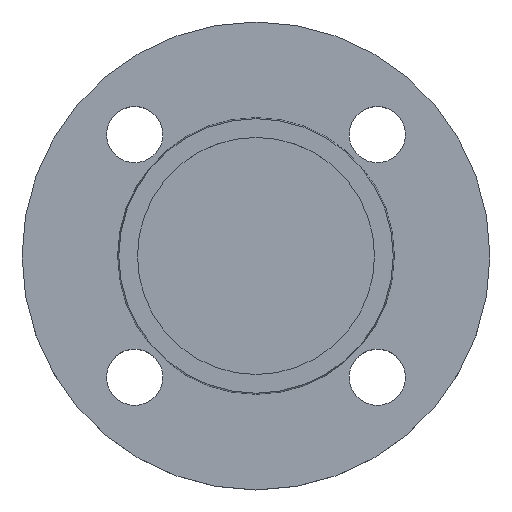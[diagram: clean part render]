
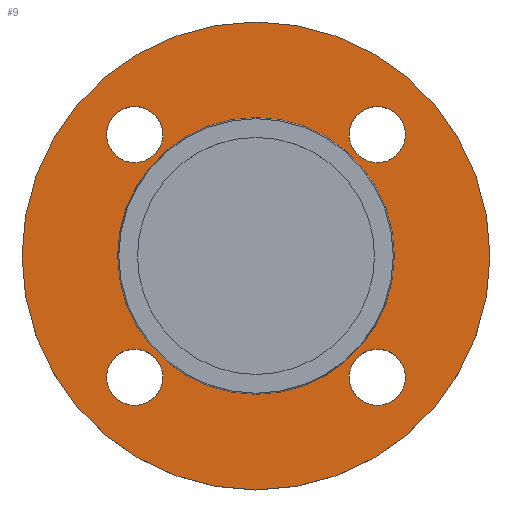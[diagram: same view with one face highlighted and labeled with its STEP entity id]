
A CAD part, top view. The second image highlights one B-rep face of the part: STEP entity #9.
In plain terms, the highlighted planar face has unit normal (0, 0, 1).
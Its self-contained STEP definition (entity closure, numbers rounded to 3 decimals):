
#8 = CIRCLE ( 'NONE', #74, 9. ) ;
#9 = ADVANCED_FACE ( 'NONE', ( #374, #375, #377, #379, #382, #383 ), #384, .T. ) ;
#14 = EDGE_CURVE ( 'NONE', #193, #275, #21, .T. ) ;
#16 = AXIS2_PLACEMENT_3D ( 'NONE', #394, #395, #396 ) ;
#21 = CIRCLE ( 'NONE', #16, 9. ) ;
#27 = CIRCLE ( 'NONE', #317, 9. ) ;
#28 = AXIS2_PLACEMENT_3D ( 'NONE', #108, #109, #115 ) ;
#35 = AXIS2_PLACEMENT_3D ( 'NONE', #429, #431, #432 ) ;
#37 = CIRCLE ( 'NONE', #110, 9. ) ;
#41 = ORIENTED_EDGE ( 'NONE', *, *, #83, .F. ) ;
#44 = AXIS2_PLACEMENT_3D ( 'NONE', #122, #136, #139 ) ;
#48 = ORIENTED_EDGE ( 'NONE', *, *, #167, .T. ) ;
#50 = ORIENTED_EDGE ( 'NONE', *, *, #454, .T. ) ;
#60 = EDGE_CURVE ( 'NONE', #275, #193, #430, .T. ) ;
#64 = CARTESIAN_POINT ( 'NONE',  ( 38.891, -38.891, -2. ) ) ;
#65 = DIRECTION ( 'NONE',  ( 0., 0., -1. ) ) ;
#66 = CIRCLE ( 'NONE', #44, 44.353 ) ;
#68 = AXIS2_PLACEMENT_3D ( 'NONE', #515, #516, #518 ) ;
#69 = DIRECTION ( 'NONE',  ( 1., 0., 0. ) ) ;
#74 = AXIS2_PLACEMENT_3D ( 'NONE', #559, #560, #561 ) ;
#80 = AXIS2_PLACEMENT_3D ( 'NONE', #469, #471, #472 ) ;
#83 = EDGE_CURVE ( 'NONE', #338, #321, #445, .T. ) ;
#90 = CIRCLE ( 'NONE', #80, 9. ) ;
#92 = EDGE_CURVE ( 'NONE', #335, #197, #121, .T. ) ;
#108 = CARTESIAN_POINT ( 'NONE',  ( -38.891, 38.891, -2. ) ) ;
#109 = DIRECTION ( 'NONE',  ( 0., 0., -1. ) ) ;
#110 = AXIS2_PLACEMENT_3D ( 'NONE', #64, #65, #69 ) ;
#114 = CIRCLE ( 'NONE', #68, 75. ) ;
#115 = DIRECTION ( 'NONE',  ( 1., 0., 0. ) ) ;
#121 = CIRCLE ( 'NONE', #35, 9. ) ;
#122 = CARTESIAN_POINT ( 'NONE',  ( 0., 0., -2. ) ) ;
#125 = AXIS2_PLACEMENT_3D ( 'NONE', #426, #427, #428 ) ;
#127 = EDGE_LOOP ( 'NONE', ( #41, #254 ) ) ;
#136 = DIRECTION ( 'NONE',  ( 0., 0., -1. ) ) ;
#139 = DIRECTION ( 'NONE',  ( -1., 0., 0. ) ) ;
#162 = CIRCLE ( 'NONE', #28, 9. ) ;
#167 = EDGE_CURVE ( 'NONE', #195, #295, #27, .T. ) ;
#169 = EDGE_CURVE ( 'NONE', #324, #294, #376, .T. ) ;
#171 = EDGE_CURVE ( 'NONE', #295, #195, #90, .T. ) ;
#189 = AXIS2_PLACEMENT_3D ( 'NONE', #466, #467, #468 ) ;
#193 = VERTEX_POINT ( 'NONE', #492 ) ;
#195 = VERTEX_POINT ( 'NONE', #494 ) ;
#196 = AXIS2_PLACEMENT_3D ( 'NONE', #386, #389, #390 ) ;
#197 = VERTEX_POINT ( 'NONE', #495 ) ;
#216 = ORIENTED_EDGE ( 'NONE', *, *, #171, .T. ) ;
#239 = ORIENTED_EDGE ( 'NONE', *, *, #363, .T. ) ;
#240 = ORIENTED_EDGE ( 'NONE', *, *, #314, .T. ) ;
#241 = EDGE_CURVE ( 'NONE', #321, #338, #114, .T. ) ;
#245 = ORIENTED_EDGE ( 'NONE', *, *, #60, .T. ) ;
#247 = ORIENTED_EDGE ( 'NONE', *, *, #14, .T. ) ;
#248 = ORIENTED_EDGE ( 'NONE', *, *, #92, .T. ) ;
#250 = ORIENTED_EDGE ( 'NONE', *, *, #451, .T. ) ;
#251 = ORIENTED_EDGE ( 'NONE', *, *, #169, .T. ) ;
#254 = ORIENTED_EDGE ( 'NONE', *, *, #241, .F. ) ;
#272 = EDGE_LOOP ( 'NONE', ( #245, #247 ) ) ;
#275 = VERTEX_POINT ( 'NONE', #542 ) ;
#294 = VERTEX_POINT ( 'NONE', #553 ) ;
#295 = VERTEX_POINT ( 'NONE', #554 ) ;
#300 = VERTEX_POINT ( 'NONE', #556 ) ;
#301 = EDGE_LOOP ( 'NONE', ( #251, #50 ) ) ;
#314 = EDGE_CURVE ( 'NONE', #300, #334, #8, .T. ) ;
#317 = AXIS2_PLACEMENT_3D ( 'NONE', #462, #464, #465 ) ;
#321 = VERTEX_POINT ( 'NONE', #568 ) ;
#324 = VERTEX_POINT ( 'NONE', #583 ) ;
#328 = EDGE_LOOP ( 'NONE', ( #48, #216 ) ) ;
#334 = VERTEX_POINT ( 'NONE', #586 ) ;
#335 = VERTEX_POINT ( 'NONE', #587 ) ;
#338 = VERTEX_POINT ( 'NONE', #590 ) ;
#340 = EDGE_LOOP ( 'NONE', ( #239, #240 ) ) ;
#351 = EDGE_LOOP ( 'NONE', ( #248, #250 ) ) ;
#363 = EDGE_CURVE ( 'NONE', #334, #300, #37, .T. ) ;
#369 = AXIS2_PLACEMENT_3D ( 'NONE', #418, #419, #420 ) ;
#374 = FACE_BOUND ( 'NONE', #340, .T. ) ;
#375 = FACE_BOUND ( 'NONE', #272, .T. ) ;
#376 = CIRCLE ( 'NONE', #189, 44.353 ) ;
#377 = FACE_BOUND ( 'NONE', #351, .T. ) ;
#379 = FACE_BOUND ( 'NONE', #328, .T. ) ;
#382 = FACE_BOUND ( 'NONE', #301, .T. ) ;
#383 = FACE_OUTER_BOUND ( 'NONE', #127, .T. ) ;
#384 = PLANE ( 'NONE',  #196 ) ;
#386 = CARTESIAN_POINT ( 'NONE',  ( 44.353, 0., -2. ) ) ;
#389 = DIRECTION ( 'NONE',  ( 0., 0., 1. ) ) ;
#390 = DIRECTION ( 'NONE',  ( 1., 0., 0. ) ) ;
#394 = CARTESIAN_POINT ( 'NONE',  ( -38.891, -38.891, -2. ) ) ;
#395 = DIRECTION ( 'NONE',  ( 0., 0., -1. ) ) ;
#396 = DIRECTION ( 'NONE',  ( 1., 0., 0. ) ) ;
#418 = CARTESIAN_POINT ( 'NONE',  ( -38.891, -38.891, -2. ) ) ;
#419 = DIRECTION ( 'NONE',  ( 0., 0., -1. ) ) ;
#420 = DIRECTION ( 'NONE',  ( 1., 0., 0. ) ) ;
#426 = CARTESIAN_POINT ( 'NONE',  ( 0., 0., -2. ) ) ;
#427 = DIRECTION ( 'NONE',  ( 0., 0., -1. ) ) ;
#428 = DIRECTION ( 'NONE',  ( -1., 0., 0. ) ) ;
#429 = CARTESIAN_POINT ( 'NONE',  ( -38.891, 38.891, -2. ) ) ;
#430 = CIRCLE ( 'NONE', #369, 9. ) ;
#431 = DIRECTION ( 'NONE',  ( 0., 0., -1. ) ) ;
#432 = DIRECTION ( 'NONE',  ( 1., 0., 0. ) ) ;
#445 = CIRCLE ( 'NONE', #125, 75. ) ;
#451 = EDGE_CURVE ( 'NONE', #197, #335, #162, .T. ) ;
#454 = EDGE_CURVE ( 'NONE', #294, #324, #66, .T. ) ;
#462 = CARTESIAN_POINT ( 'NONE',  ( 38.891, 38.891, -2. ) ) ;
#464 = DIRECTION ( 'NONE',  ( 0., 0., -1. ) ) ;
#465 = DIRECTION ( 'NONE',  ( 1., 0., 0. ) ) ;
#466 = CARTESIAN_POINT ( 'NONE',  ( 0., 0., -2. ) ) ;
#467 = DIRECTION ( 'NONE',  ( 0., 0., -1. ) ) ;
#468 = DIRECTION ( 'NONE',  ( -1., 0., 0. ) ) ;
#469 = CARTESIAN_POINT ( 'NONE',  ( 38.891, 38.891, -2. ) ) ;
#471 = DIRECTION ( 'NONE',  ( 0., 0., -1. ) ) ;
#472 = DIRECTION ( 'NONE',  ( 1., 0., 0. ) ) ;
#492 = CARTESIAN_POINT ( 'NONE',  ( -47.891, -38.891, -2. ) ) ;
#494 = CARTESIAN_POINT ( 'NONE',  ( 47.891, 38.891, -2. ) ) ;
#495 = CARTESIAN_POINT ( 'NONE',  ( -47.891, 38.891, -2. ) ) ;
#515 = CARTESIAN_POINT ( 'NONE',  ( 0., 0., -2. ) ) ;
#516 = DIRECTION ( 'NONE',  ( 0., 0., -1. ) ) ;
#518 = DIRECTION ( 'NONE',  ( -1., 0., 0. ) ) ;
#542 = CARTESIAN_POINT ( 'NONE',  ( -29.891, -38.891, -2. ) ) ;
#553 = CARTESIAN_POINT ( 'NONE',  ( 44.353, 0., -2. ) ) ;
#554 = CARTESIAN_POINT ( 'NONE',  ( 29.891, 38.891, -2. ) ) ;
#556 = CARTESIAN_POINT ( 'NONE',  ( 29.891, -38.891, -2. ) ) ;
#559 = CARTESIAN_POINT ( 'NONE',  ( 38.891, -38.891, -2. ) ) ;
#560 = DIRECTION ( 'NONE',  ( 0., 0., -1. ) ) ;
#561 = DIRECTION ( 'NONE',  ( 1., 0., 0. ) ) ;
#568 = CARTESIAN_POINT ( 'NONE',  ( -75., 0., -2. ) ) ;
#583 = CARTESIAN_POINT ( 'NONE',  ( -44.353, 0., -2. ) ) ;
#586 = CARTESIAN_POINT ( 'NONE',  ( 47.891, -38.891, -2. ) ) ;
#587 = CARTESIAN_POINT ( 'NONE',  ( -29.891, 38.891, -2. ) ) ;
#590 = CARTESIAN_POINT ( 'NONE',  ( 75., 0., -2. ) ) ;
